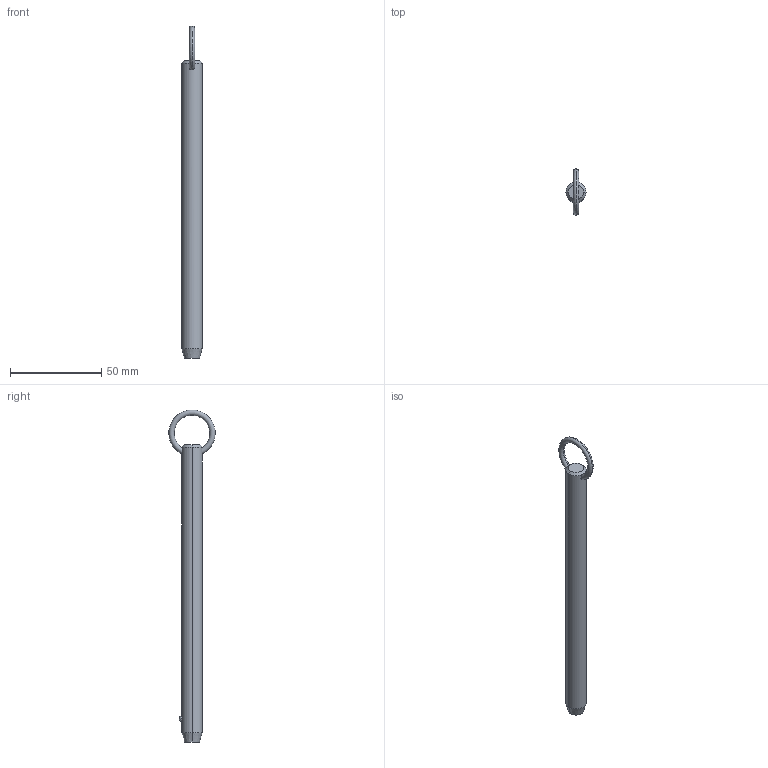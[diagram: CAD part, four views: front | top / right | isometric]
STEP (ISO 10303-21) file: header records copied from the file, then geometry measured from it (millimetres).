
FILE_DESCRIPTION (( 'STEP AP203' ), '1' );
FILE_NAME ('P1250.050-560.step', '2019-07-29T20:40:00', ( '' ), ( '' ), 'SwSTEP 2.0', 'SolidWorks 2017', '' );
FILE_SCHEMA (( 'CONFIG_CONTROL_DESIGN' ));
Length unit declared in the file: millimetre
Products named in the file (1): P1250.050-560
Bounding box: 11.1 x 25.32 x 181.75 mm (x, y, z)
Volume: 16036.7 mm3; surface area: 6329.8 mm2
Topology: 1 solids, 1 shells, 12 faces, 28 edges, 17 vertices
Faces by surface type: cone 4, torus 2, sphere 2, cylinder 2, plane 2
Entity records: 523 total; most frequent: CARTESIAN_POINT 190, DIRECTION 56, ORIENTED_EDGE 48, AXIS2_PLACEMENT_3D 25, EDGE_CURVE 24, EDGE_LOOP 15, VERTEX_POINT 15, CIRCLE 12
